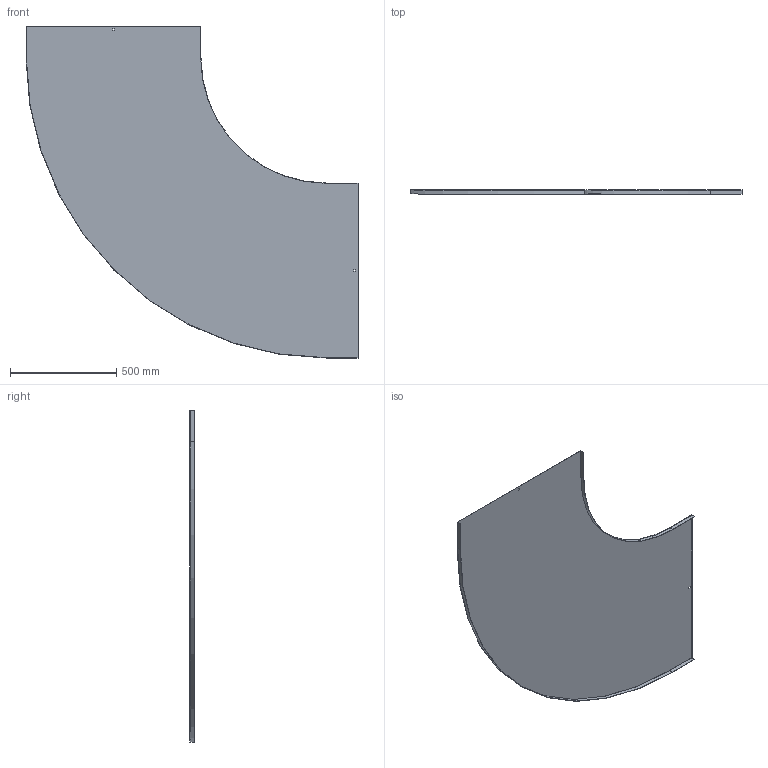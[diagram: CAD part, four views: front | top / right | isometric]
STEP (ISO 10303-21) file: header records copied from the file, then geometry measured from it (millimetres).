
FILE_DESCRIPTION (( 'STEP AP214' ), '1' );
FILE_NAME ('10N6P800.step', '2025-02-21T13:37:26', ( '' ), ( '' ), 'SwSTEP 2.0', 'SolidWorks 2023', '' );
FILE_SCHEMA (( 'AUTOMOTIVE_DESIGN' ));
Length unit declared in the file: millimetre
Products named in the file (1): 10N6P800
Bounding box: 1561.5 x 20 x 1561.5 mm (x, y, z)
Volume: 2413151.8 mm3; surface area: 3225821.1 mm2
Topology: 1 solids, 1 shells, 26 faces, 72 edges, 48 vertices
Faces by surface type: plane 22, cylinder 4
Entity records: 855 total; most frequent: CARTESIAN_POINT 147, ORIENTED_EDGE 144, DIRECTION 134, EDGE_CURVE 72, LINE 64, VECTOR 64, VERTEX_POINT 48, AXIS2_PLACEMENT_3D 35
